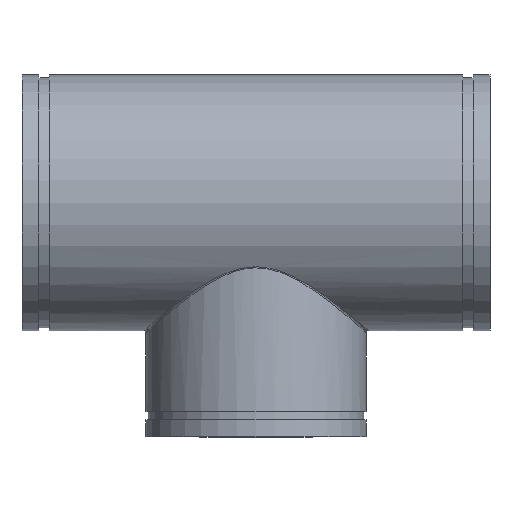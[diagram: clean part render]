
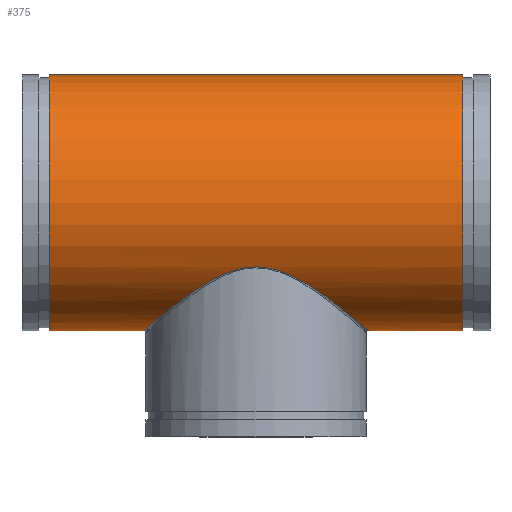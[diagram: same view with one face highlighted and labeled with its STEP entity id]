
A CAD part, top view. The second image highlights one B-rep face of the part: STEP entity #375.
In plain terms, the highlighted cylindrical face has radius 194.31 mm (diameter 388.62 mm), a full revolution.
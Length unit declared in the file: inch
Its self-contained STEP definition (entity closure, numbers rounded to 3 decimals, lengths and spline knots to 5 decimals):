
#54=FACE_BOUND('',#119,.T.);
#65=LINE('',#987,#76);
#76=VECTOR('',#483,7.65);
#87=CYLINDRICAL_SURFACE('',#415,7.65);
#98=FACE_OUTER_BOUND('',#118,.T.);
#118=EDGE_LOOP('',(#266,#267,#268,#269));
#119=EDGE_LOOP('',(#270));
#150=B_SPLINE_CURVE_WITH_KNOTS('',3,(#931,#932,#933,#934,#935,#936,#937,
#938,#939,#940,#941,#942,#943,#944,#945,#946,#947,#948,#949,#950,#951,#952,
#953,#954,#955,#956,#957,#958,#959,#960,#961,#962,#963,#964,#965,#966,#967,
#968,#969,#970,#971,#972,#973,#974,#975,#976,#977,#978,#979,#980,#981,#982),
 .UNSPECIFIED.,.T.,.F.,(4,1,1,1,1,1,1,1,1,1,1,1,1,1,1,1,1,1,1,1,1,1,1,1,
1,1,1,1,1,1,1,1,1,1,1,1,1,1,1,1,1,1,1,1,1,1,1,1,1,4),(-110.68489,
-109.20251,-108.70838,-106.73186,-104.75535,
-103.27296,-102.77883,-98.8258,-94.87277,
-91.79819,-91.35896,-89.60206,-86.9667,
-85.97844,-84.33135,-81.69599,-79.06064,
-77.08412,-76.42528,-73.78993,-68.51922,
-67.86038,-65.88387,-63.24851,-60.61316,-58.96606,
-57.9778,-56.2209,-55.34245,-53.58554,
-52.70709,-50.07174,-47.43638,-44.80103,
-42.16567,-36.89496,-33.38116,-31.62426,
-28.9889,-26.35355,-23.71819,-21.08284,
-19.32593,-15.81213,-11.8591,-7.90606,
-5.92955,-3.95303,-1.97652,0.),.UNSPECIFIED.);
#154=CIRCLE('',#416,7.65);
#155=CIRCLE('',#417,7.65);
#182=VERTEX_POINT('',#871);
#185=VERTEX_POINT('',#984);
#186=VERTEX_POINT('',#986);
#219=EDGE_CURVE('',#182,#182,#150,.T.);
#220=EDGE_CURVE('',#185,#185,#154,.T.);
#221=EDGE_CURVE('',#185,#186,#65,.T.);
#222=EDGE_CURVE('',#186,#186,#155,.T.);
#266=ORIENTED_EDGE('',*,*,#220,.T.);
#267=ORIENTED_EDGE('',*,*,#221,.T.);
#268=ORIENTED_EDGE('',*,*,#222,.T.);
#269=ORIENTED_EDGE('',*,*,#221,.F.);
#270=ORIENTED_EDGE('',*,*,#219,.F.);
#375=ADVANCED_FACE('',(#98,#54),#87,.T.);
#415=AXIS2_PLACEMENT_3D('',#983,#479,#480);
#416=AXIS2_PLACEMENT_3D('',#985,#481,#482);
#417=AXIS2_PLACEMENT_3D('',#988,#484,#485);
#479=DIRECTION('center_axis',(-1.,0.,0.));
#480=DIRECTION('ref_axis',(0.,-1.,0.));
#481=DIRECTION('center_axis',(1.,0.,0.));
#482=DIRECTION('ref_axis',(0.,-1.,0.));
#483=DIRECTION('',(1.,0.,0.));
#484=DIRECTION('center_axis',(-1.,0.,0.));
#485=DIRECTION('ref_axis',(0.,-1.,0.));
#871=CARTESIAN_POINT('',(0.,-3.83919,-6.61688));
#931=CARTESIAN_POINT('Ctrl Pts',(0.,-3.83919,
-6.61688));
#932=CARTESIAN_POINT('Ctrl Pts',(0.20343,-3.83919,-6.61688));
#933=CARTESIAN_POINT('Ctrl Pts',(0.47454,-3.8604,-6.60467));
#934=CARTESIAN_POINT('Ctrl Pts',(1.00598,-3.95387,-6.54933));
#935=CARTESIAN_POINT('Ctrl Pts',(1.58423,-4.12499,-6.44537));
#936=CARTESIAN_POINT('Ctrl Pts',(2.2405,-4.41756,-6.24946));
#937=CARTESIAN_POINT('Ctrl Pts',(2.68821,-4.65937,-6.06902));
#938=CARTESIAN_POINT('Ctrl Pts',(3.33616,-5.0386,-5.76691));
#939=CARTESIAN_POINT('Ctrl Pts',(4.18227,-5.6122,-5.24292));
#940=CARTESIAN_POINT('Ctrl Pts',(5.13207,-6.33733,-4.33871));
#941=CARTESIAN_POINT('Ctrl Pts',(5.66603,-6.76807,-3.58823));
#942=CARTESIAN_POINT('Ctrl Pts',(5.99298,-7.03598,-3.01267));
#943=CARTESIAN_POINT('Ctrl Pts',(6.26318,-7.25985,-2.45942));
#944=CARTESIAN_POINT('Ctrl Pts',(6.48886,-7.44979,-1.79072));
#945=CARTESIAN_POINT('Ctrl Pts',(6.63787,-7.57591,-1.10522));
#946=CARTESIAN_POINT('Ctrl Pts',(6.73222,-7.65612,-0.40273));
#947=CARTESIAN_POINT('Ctrl Pts',(6.73223,-7.65616,0.53678));
#948=CARTESIAN_POINT('Ctrl Pts',(6.57258,-7.52035,1.49842));
#949=CARTESIAN_POINT('Ctrl Pts',(6.36449,-7.34516,2.15911));
#950=CARTESIAN_POINT('Ctrl Pts',(6.1105,-7.13297,2.79079));
#951=CARTESIAN_POINT('Ctrl Pts',(5.60696,-6.71723,3.75527));
#952=CARTESIAN_POINT('Ctrl Pts',(4.92979,-6.17777,4.54866));
#953=CARTESIAN_POINT('Ctrl Pts',(4.21949,-5.65286,5.15996));
#954=CARTESIAN_POINT('Ctrl Pts',(3.71918,-5.29677,5.53273));
#955=CARTESIAN_POINT('Ctrl Pts',(2.97144,-4.81064,5.96039));
#956=CARTESIAN_POINT('Ctrl Pts',(2.18658,-4.38361,6.2744));
#957=CARTESIAN_POINT('Ctrl Pts',(1.53767,-4.11764,6.44836));
#958=CARTESIAN_POINT('Ctrl Pts',(0.97072,-3.94487,6.55515));
#959=CARTESIAN_POINT('Ctrl Pts',(0.48239,-3.85575,6.60729));
#960=CARTESIAN_POINT('Ctrl Pts',(-0.12069,-3.82804,6.6233));
#961=CARTESIAN_POINT('Ctrl Pts',(-0.60236,-3.87277,6.59757));
#962=CARTESIAN_POINT('Ctrl Pts',(-1.30321,-4.02814,6.50473));
#963=CARTESIAN_POINT('Ctrl Pts',(-2.07454,-4.32257,6.31925));
#964=CARTESIAN_POINT('Ctrl Pts',(-2.97088,-4.81045,5.96061));
#965=CARTESIAN_POINT('Ctrl Pts',(-3.78764,-5.34103,5.49369));
#966=CARTESIAN_POINT('Ctrl Pts',(-4.77342,-6.05311,4.73177));
#967=CARTESIAN_POINT('Ctrl Pts',(-5.67639,-6.77251,3.67425));
#968=CARTESIAN_POINT('Ctrl Pts',(-6.27204,-7.26713,2.46357));
#969=CARTESIAN_POINT('Ctrl Pts',(-6.5772,-7.52437,1.46947));
#970=CARTESIAN_POINT('Ctrl Pts',(-6.73227,-7.65615,0.53716));
#971=CARTESIAN_POINT('Ctrl Pts',(-6.73223,-7.65615,-0.53666));
#972=CARTESIAN_POINT('Ctrl Pts',(-6.55807,-7.50806,-1.58574));
#973=CARTESIAN_POINT('Ctrl Pts',(-6.26328,-7.25988,-2.45913));
#974=CARTESIAN_POINT('Ctrl Pts',(-5.8211,-6.89366,-3.36475));
#975=CARTESIAN_POINT('Ctrl Pts',(-5.17027,-6.36643,-4.30245));
#976=CARTESIAN_POINT('Ctrl Pts',(-4.18223,-5.61232,-5.24282));
#977=CARTESIAN_POINT('Ctrl Pts',(-3.18712,-4.93727,-5.85938));
#978=CARTESIAN_POINT('Ctrl Pts',(-2.30036,-4.44373,-6.2318));
#979=CARTESIAN_POINT('Ctrl Pts',(-1.58414,-4.12537,-6.44523));
#980=CARTESIAN_POINT('Ctrl Pts',(-0.81333,-3.89631,-6.58416));
#981=CARTESIAN_POINT('Ctrl Pts',(-0.27124,-3.83919,-6.61688));
#982=CARTESIAN_POINT('Ctrl Pts',(0.,-3.83919,
-6.61688));
#983=CARTESIAN_POINT('Origin',(14.,0.,0.));
#984=CARTESIAN_POINT('',(-12.36,7.65,0.));
#985=CARTESIAN_POINT('Origin',(-12.36,0.,0.));
#986=CARTESIAN_POINT('',(12.36,7.65,0.));
#987=CARTESIAN_POINT('',(14.,7.65,0.));
#988=CARTESIAN_POINT('Origin',(12.36,0.,0.));
